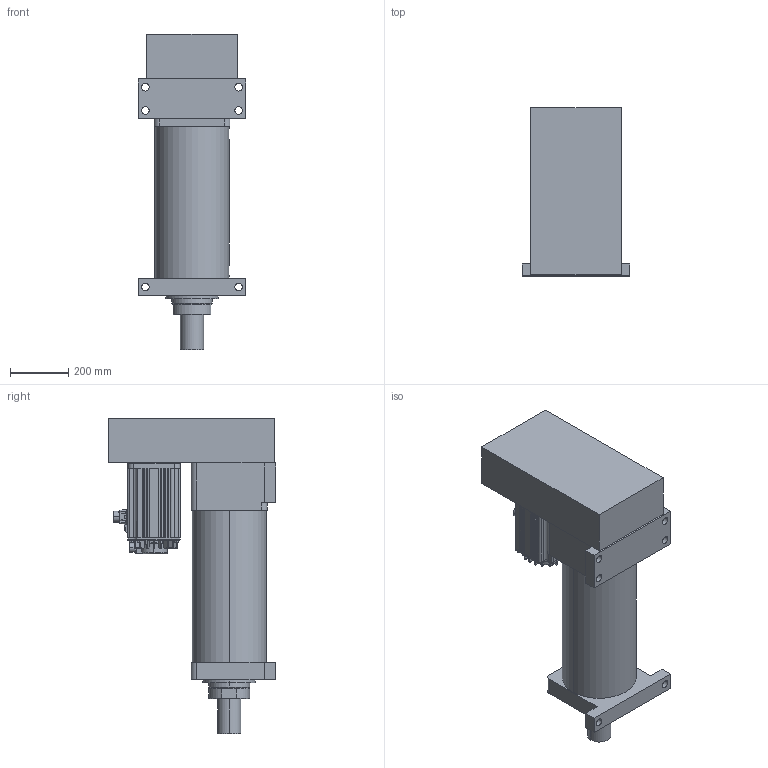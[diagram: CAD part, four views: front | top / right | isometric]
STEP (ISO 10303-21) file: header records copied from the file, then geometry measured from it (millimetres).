
FILE_DESCRIPTION (( 'STEP AP203' ), '1' );
FILE_NAME ('S9殏殿耜醱假蚾.STEP', '2024-08-14T08:31:57', ( '' ), ( '' ), 'SwSTEP 2.0', 'SolidWorks 2018', '' );
FILE_SCHEMA (( 'CONFIG_CONTROL_DESIGN' ));
Length unit declared in the file: millimetre
Products named in the file (3): ECMA-LX1855S3-180框號系列機種-5.5KW-400V高慣量系列; S9殏殿耜醱假蚾; S9殏殿耜醱
Assembly tree (2 placements, depth 2):
  S9殏殿耜醱假蚾
    ECMA-LX1855S3-180框號系列機種-5.5KW-400V高慣量系列
    S9殏殿耜醱
Bounding box: 370 x 575 x 1082 mm (x, y, z)
Volume: 76457174.4 mm3; surface area: 2008326.8 mm2
Topology: 2 solids, 5 shells, 731 faces, 1710 edges, 1053 vertices
Faces by surface type: plane 368, cylinder 264, cone 48, bspline 31, torus 20
Entity records: 23406 total; most frequent: CARTESIAN_POINT 6644, ORIENTED_EDGE 3416, DIRECTION 3356, EDGE_CURVE 1708, AXIS2_PLACEMENT_3D 1198, VERTEX_POINT 1053, LINE 960, VECTOR 960
